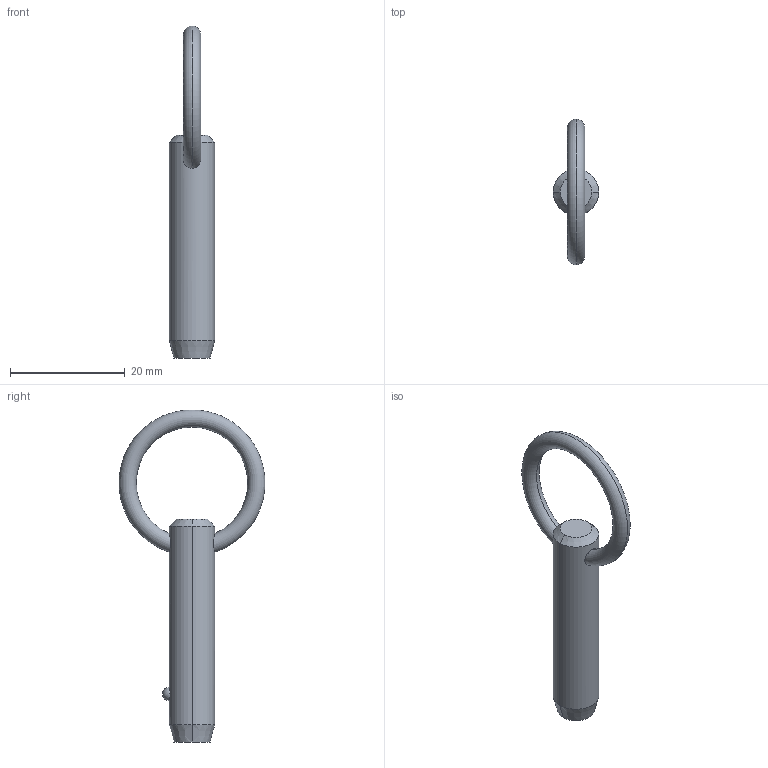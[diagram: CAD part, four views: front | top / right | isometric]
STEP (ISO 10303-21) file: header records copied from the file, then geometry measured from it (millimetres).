
FILE_DESCRIPTION (( 'STEP AP203' ), '1' );
FILE_NAME ('P1250.031-090.step', '2019-07-29T19:48:00', ( '' ), ( '' ), 'SwSTEP 2.0', 'SolidWorks 2017', '' );
FILE_SCHEMA (( 'CONFIG_CONTROL_DESIGN' ));
Length unit declared in the file: millimetre
Products named in the file (1): P1250.031-090
Bounding box: 7.93 x 25.36 x 57.8 mm (x, y, z)
Volume: 2315.3 mm3; surface area: 1601.2 mm2
Topology: 1 solids, 1 shells, 12 faces, 28 edges, 17 vertices
Faces by surface type: cone 4, torus 2, sphere 2, cylinder 2, plane 2
Entity records: 509 total; most frequent: CARTESIAN_POINT 176, DIRECTION 56, ORIENTED_EDGE 48, AXIS2_PLACEMENT_3D 25, EDGE_CURVE 24, EDGE_LOOP 15, VERTEX_POINT 15, CIRCLE 12
